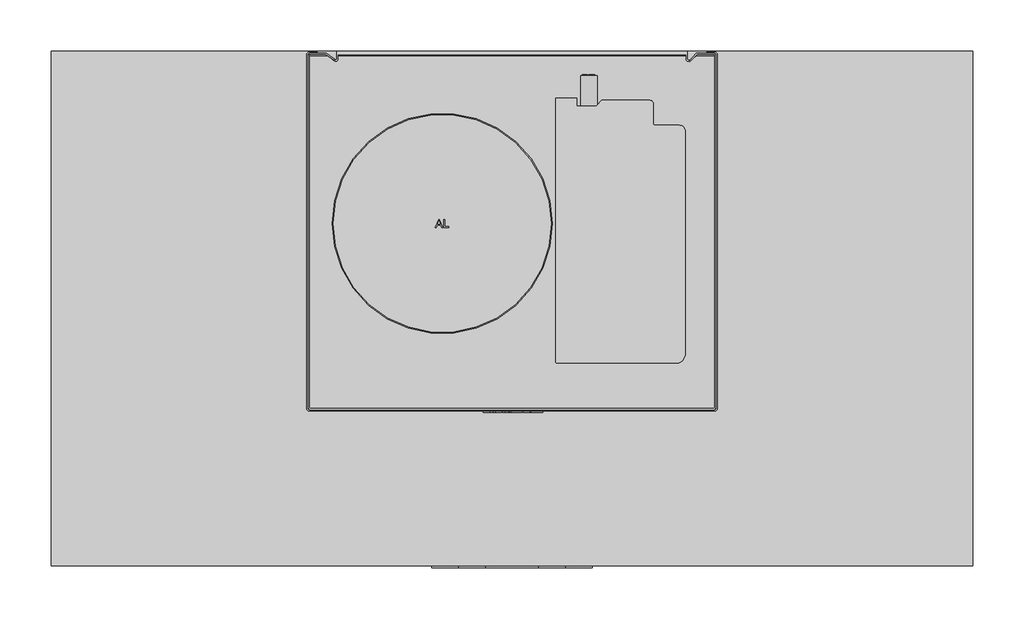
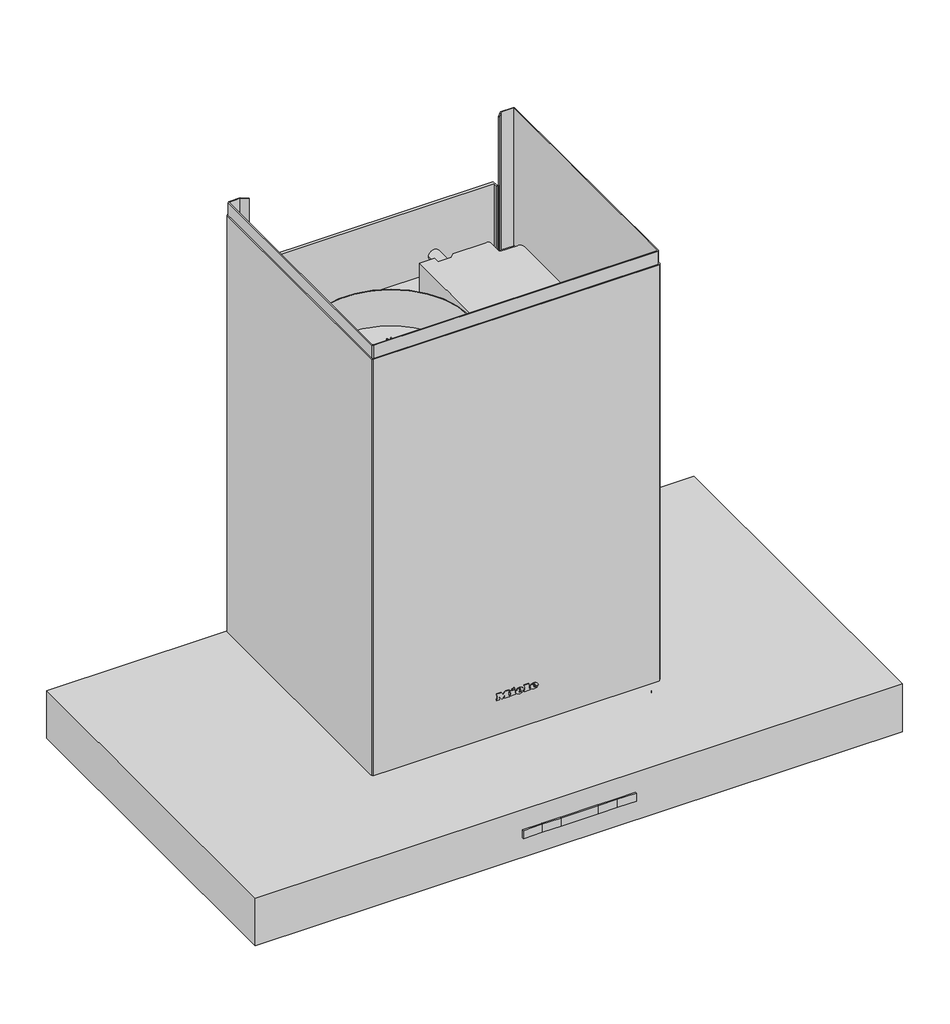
# Not in any storey: 1 proxy.
"""IFC4 building model written with IfcOpenShell, lengths in millimetres."""

from ifc_helpers import new_model, si_unit, origin, place, context, project, spatial, transform, mapped, element, save
from components import specialty_equipment_1e91813d

model = new_model("IFC4")

# Units and contexts
model_context = context("Model", 3, world=origin())
ifc_project = project(units=[si_unit("LENGTHUNIT", "METRE", prefix="MILLI")], contexts=[model_context])

# Site, building
site = spatial("IfcSite", under=ifc_project)
building = spatial("IfcBuilding", under=site)

# Proxy
placement = place(None, origin())
specialty_equipment_shape = specialty_equipment_1e91813d(model_context)
element("IfcBuildingElementProxy", 1, Name="12394330_CN_DA3984C_EDST : 28W3984S_CN_12394330_DA3984C_EDST", ObjectType="12394330_CN_DA3984C_EDST : 28W3984S_CN_12394330_DA3984C_EDST", at=placement, inside=building, context=model_context, shape_type="MappedRepresentation", body=[
    mapped(specialty_equipment_shape, transform((0.0, 0.0, 0.0), x_axis=(1.0, 0.0, 0.0), y_axis=(0.0, 1.0, 0.0), z_axis=(0.0, 0.0, 1.0))),
])

save(model, "model.ifc")
